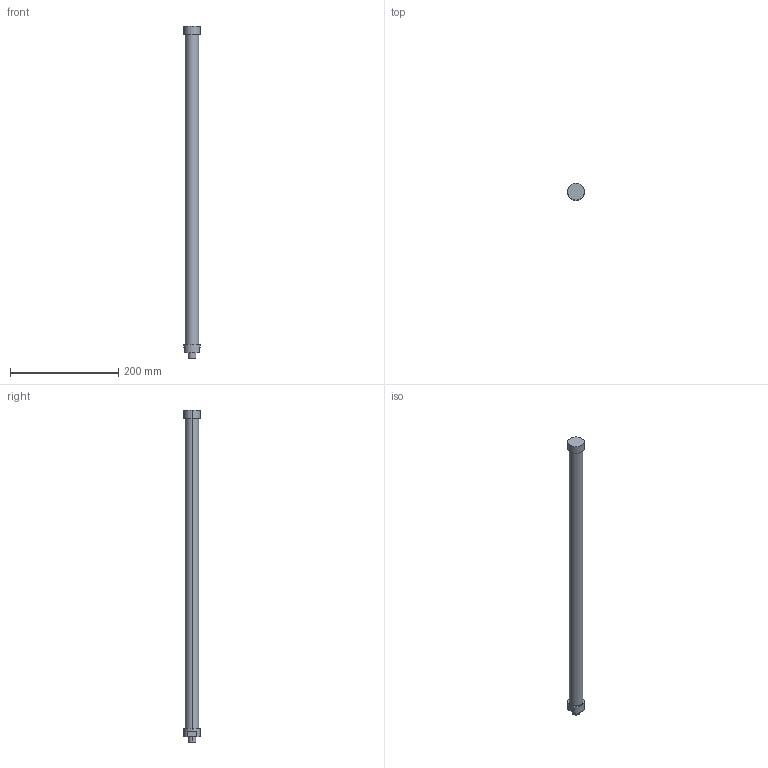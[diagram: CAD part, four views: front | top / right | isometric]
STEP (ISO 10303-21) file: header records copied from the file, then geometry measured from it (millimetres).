
FILE_DESCRIPTION(('STEP AP214'),'1');
FILE_NAME('C:/Users/Autocad/Desktop/L614-C390S1-FN.stp','2014-02-10T10:55:47',(' '),(' '),'Spatial InterOp 3D',' ',' ');
FILE_SCHEMA(('automotive_design'));
Length unit declared in the file: metre
Products named in the file (2): 1; 2
Bounding box: 31 x 31 x 614 mm (x, y, z)
Volume: 304975.7 mm3; surface area: 51048.7 mm2
Topology: 1 solids, 4 shells, 23 faces, 54 edges, 40 vertices
Faces by surface type: cylinder 12, plane 11
Entity records: 916 total; most frequent: DIRECTION 136, CARTESIAN_POINT 119, ORIENTED_EDGE 96, AXIS2_PLACEMENT_3D 57, EDGE_CURVE 54, VERTEX_POINT 40, CIRCLE 32, EDGE_LOOP 28
